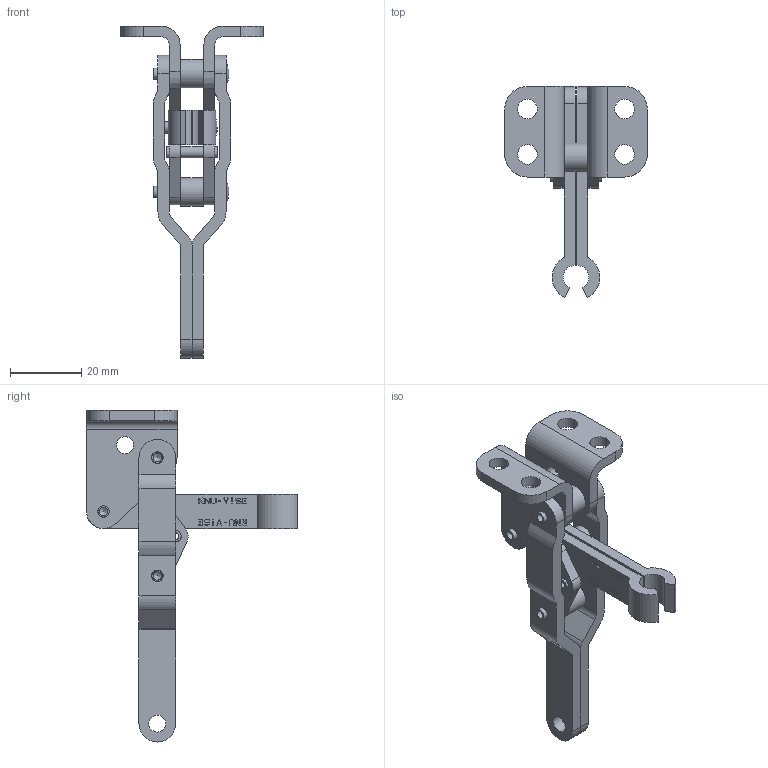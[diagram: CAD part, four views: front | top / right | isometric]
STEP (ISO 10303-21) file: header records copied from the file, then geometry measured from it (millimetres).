
FILE_DESCRIPTION(/* description */ (''),/* implementation_level */ '2;1');
FILE_NAME(/* name */ 'vtst-220',/* time_stamp */ '2004-12-08T23:40:25-05:00',/* author */ (''),/* organization */ (''),/* preprocessor_version */ 'ST-DEVELOPER v9',/* originating_system */ 'EDS PLM SOLUTIONS - UNIGRAPHICS NX 2.0',/* authorisation */ '');
FILE_SCHEMA (('AUTOMOTIVE_DESIGN { 1 0 10303 214 0 1 1 1 }'));
Length unit declared in the file: inch
Products named in the file (1): Al437Ffom4
Bounding box: 39.93 x 59.13 x 93.03 mm (x, y, z)
Volume: 16419.3 mm3; surface area: 15908.6 mm2
Topology: 15 solids, 15 shells, 572 faces, 1538 edges, 1028 vertices
Faces by surface type: plane 476, cylinder 74, extrusion 6, bspline 4, cone 4, sphere 4, torus 4
Full cylindrical faces by diameter (mm): 2.362 x4, 3.124 x4, 3.226 x14, 3.251 x4, 3.3 x2, 4.775 x4, 5.537 x4, 7.95 x2
Entity records: 17542 total; most frequent: CARTESIAN_POINT 3199, ORIENTED_EDGE 2928, DIRECTION 2732, EDGE_CURVE 1464, VECTOR 1294, LINE 1288, VERTEX_POINT 1008, AXIS2_PLACEMENT_3D 719
